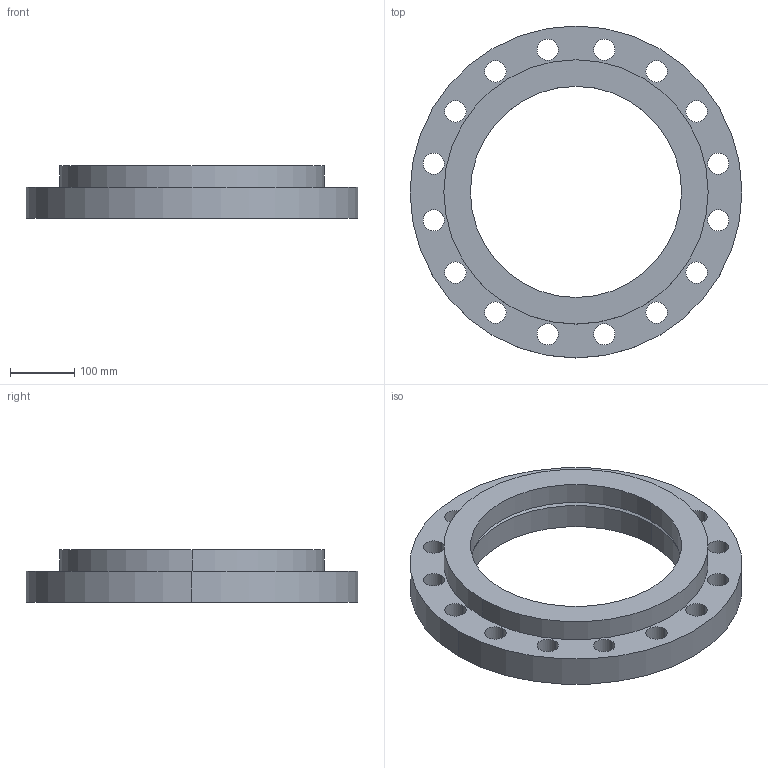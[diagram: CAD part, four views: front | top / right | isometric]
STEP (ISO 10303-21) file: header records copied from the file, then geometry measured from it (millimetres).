
FILE_DESCRIPTION (( 'STEP AP214' ), '1' );
FILE_NAME ('PN40 DN300 Type 02 in 32 - (Type A Face).STEP', '2019-01-05T20:29:31', ( '' ), ( '' ), 'SwSTEP 2.0', 'SolidWorks 2019', '' );
FILE_SCHEMA (( 'AUTOMOTIVE_DESIGN' ));
Length unit declared in the file: millimetre
Products named in the file (1): PN40 DN300 Type 02 in 32 - (Type A Face)
Bounding box: 515 x 515 x 82 mm (x, y, z)
Volume: 6752191.2 mm3; surface area: 592086.1 mm2
Topology: 2 solids, 2 shells, 46 faces, 124 edges, 82 vertices
Faces by surface type: cylinder 40, plane 4, cone 2
Entity records: 1609 total; most frequent: DIRECTION 300, CARTESIAN_POINT 253, ORIENTED_EDGE 248, AXIS2_PLACEMENT_3D 129, EDGE_CURVE 124, CIRCLE 82, VERTEX_POINT 82, EDGE_LOOP 82
